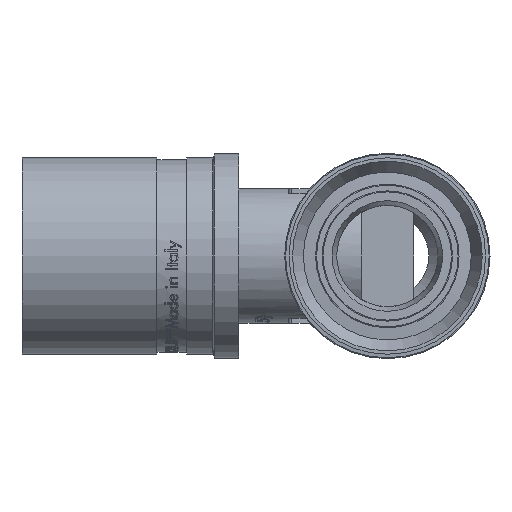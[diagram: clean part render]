
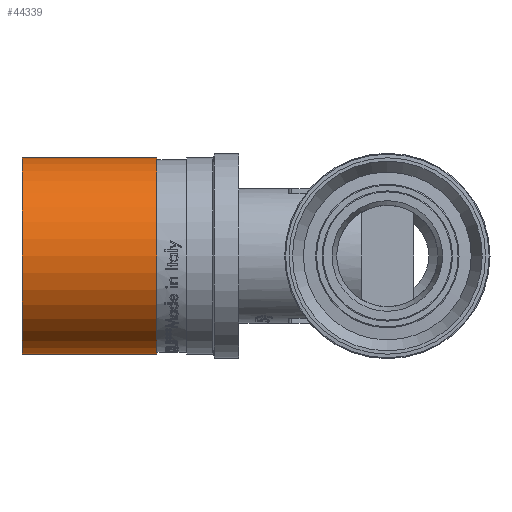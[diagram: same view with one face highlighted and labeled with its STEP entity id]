
A CAD part, left-side view. The second image highlights one B-rep face of the part: STEP entity #44339.
In plain terms, the highlighted cylindrical face has radius 14.925 mm (diameter 29.85 mm), a full revolution.
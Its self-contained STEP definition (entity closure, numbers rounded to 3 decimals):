
#298=CYLINDRICAL_SURFACE('',#46824,14.925);
#867=CIRCLE('',#46822,14.925);
#868=CIRCLE('',#46823,14.925);
#869=CIRCLE('',#46825,14.925);
#870=CIRCLE('',#46826,14.925);
#6817=FACE_OUTER_BOUND('',#9449,.T.);
#9449=EDGE_LOOP('',(#34745,#34746,#34747,#34748,#34749,#34750));
#12535=LINE('',#77400,#15625);
#15625=VECTOR('',#51879,14.925);
#19238=VERTEX_POINT('',#77391);
#19239=VERTEX_POINT('',#77392);
#19240=VERTEX_POINT('',#77396);
#19241=VERTEX_POINT('',#77397);
#24881=EDGE_CURVE('',#19238,#19239,#867,.T.);
#24882=EDGE_CURVE('',#19239,#19238,#868,.T.);
#24883=EDGE_CURVE('',#19240,#19241,#869,.T.);
#24884=EDGE_CURVE('',#19241,#19240,#870,.T.);
#24885=EDGE_CURVE('',#19241,#19239,#12535,.T.);
#34745=ORIENTED_EDGE('',*,*,#24883,.F.);
#34746=ORIENTED_EDGE('',*,*,#24884,.F.);
#34747=ORIENTED_EDGE('',*,*,#24885,.T.);
#34748=ORIENTED_EDGE('',*,*,#24882,.T.);
#34749=ORIENTED_EDGE('',*,*,#24881,.T.);
#34750=ORIENTED_EDGE('',*,*,#24885,.F.);
#44339=ADVANCED_FACE('',(#6817),#298,.T.);
#46822=AXIS2_PLACEMENT_3D('',#77393,#51869,#51870);
#46823=AXIS2_PLACEMENT_3D('',#77394,#51871,#51872);
#46824=AXIS2_PLACEMENT_3D('',#77395,#51873,#51874);
#46825=AXIS2_PLACEMENT_3D('',#77398,#51875,#51876);
#46826=AXIS2_PLACEMENT_3D('',#77399,#51877,#51878);
#51869=DIRECTION('center_axis',(0.,-1.,0.));
#51870=DIRECTION('ref_axis',(0.,0.,-1.));
#51871=DIRECTION('center_axis',(0.,-1.,0.));
#51872=DIRECTION('ref_axis',(0.,0.,-1.));
#51873=DIRECTION('center_axis',(0.,-1.,0.));
#51874=DIRECTION('ref_axis',(1.,0.,0.));
#51875=DIRECTION('center_axis',(0.,-1.,0.));
#51876=DIRECTION('ref_axis',(0.,0.,-1.));
#51877=DIRECTION('center_axis',(0.,-1.,0.));
#51878=DIRECTION('ref_axis',(0.,0.,-1.));
#51879=DIRECTION('',(0.,1.,0.));
#77391=CARTESIAN_POINT('',(14.925,55.512,0.));
#77392=CARTESIAN_POINT('',(-14.925,55.512,0.));
#77393=CARTESIAN_POINT('Origin',(0.,55.512,
0.));
#77394=CARTESIAN_POINT('Origin',(0.,55.512,
0.));
#77395=CARTESIAN_POINT('Origin',(0.,45.262,
0.));
#77396=CARTESIAN_POINT('',(14.925,35.012,0.));
#77397=CARTESIAN_POINT('',(-14.925,35.012,0.));
#77398=CARTESIAN_POINT('Origin',(0.,35.012,
0.));
#77399=CARTESIAN_POINT('Origin',(0.,35.012,
0.));
#77400=CARTESIAN_POINT('',(-14.925,45.262,0.));
